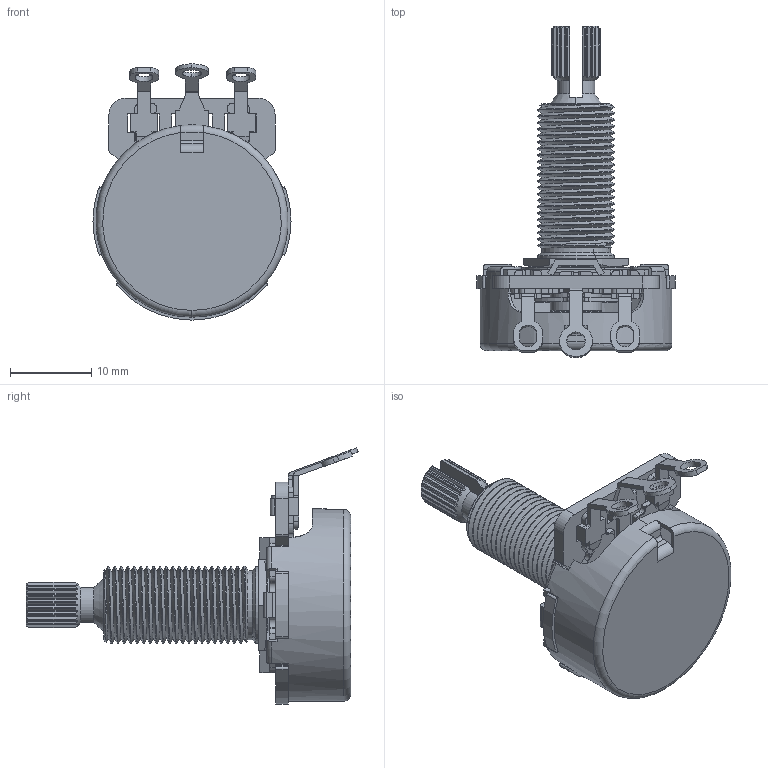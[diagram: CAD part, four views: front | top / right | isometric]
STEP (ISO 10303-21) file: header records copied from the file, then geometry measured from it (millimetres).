
FILE_DESCRIPTION (( 'STEP AP214' ), '1' );
FILE_NAME ('450GT69K254B1S.STEP', '2019-05-27T01:44:03', ( '' ), ( '' ), 'SwSTEP 2.0', 'SolidWorks 2019', '' );
FILE_SCHEMA (( 'AUTOMOTIVE_DESIGN' ));
Length unit declared in the file: millimetre
Products named in the file (10): 450 element; 450D-17 for T450AEDF; 450S-DL-11862-36; 450F-23 for T450AEDF; 450A-104G; 450-E-E-2407; 450GT69K254B1S; T450AEDF(For 104G); 45C-2Z-no lug; P45Q_Flat Bottom_45Q54 withFenderTradeMark_NewDetentSetting_07102012
Assembly tree (10 placements, depth 3):
  450GT69K254B1S
    P45Q_Flat Bottom_45Q54 withFenderTradeMark_NewDetentSetting_07102012
    T450AEDF(For 104G)
      450A-104G
      450D-17 for T450AEDF
      450 element
      450F-23 for T450AEDF  x2
    45C-2Z-no lug
    450-E-E-2407
    450S-DL-11862-36
Bounding box: 24.33 x 40.78 x 31.47 mm (x, y, z)
Volume: 3226.7 mm3; surface area: 7676.3 mm2
Topology: 9 solids, 9 shells, 781 faces, 2203 edges, 1441 vertices
Faces by surface type: plane 450, cylinder 284, cone 27, torus 18, bspline 2
Entity records: 26341 total; most frequent: CARTESIAN_POINT 7512, ORIENTED_EDGE 4040, DIRECTION 3711, EDGE_CURVE 2020, VERTEX_POINT 1324, AXIS2_PLACEMENT_3D 1264, LINE 1183, VECTOR 1183
